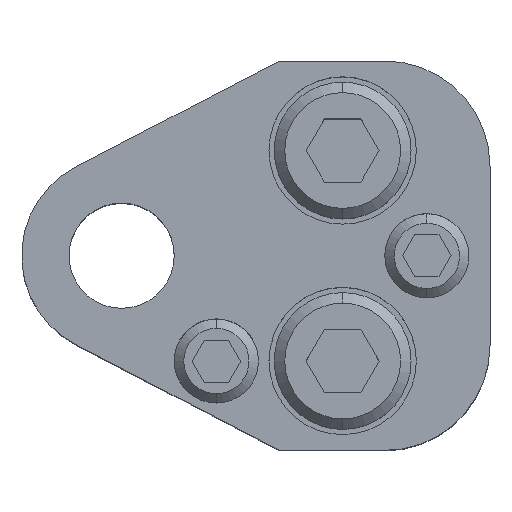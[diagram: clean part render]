
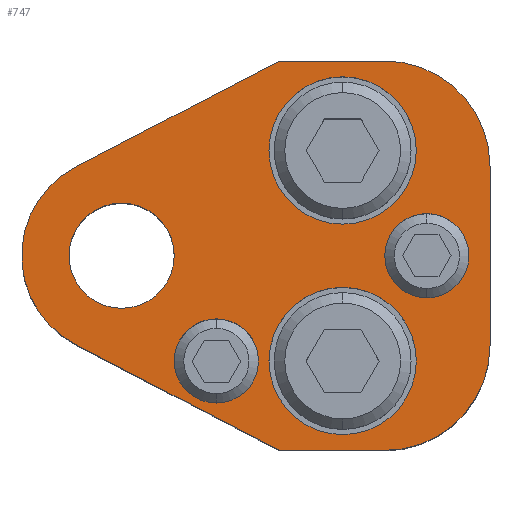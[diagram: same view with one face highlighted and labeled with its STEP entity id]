
A CAD part, top view. The second image highlights one B-rep face of the part: STEP entity #747.
In plain terms, the highlighted planar face has unit normal (0, 0, 1).
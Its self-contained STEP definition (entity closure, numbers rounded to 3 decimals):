
#429=LINE('',#3637,#593);
#433=LINE('',#3646,#597);
#437=LINE('',#3658,#601);
#441=LINE('',#3670,#605);
#444=LINE('',#3676,#608);
#593=VECTOR('',#2930,1.);
#597=VECTOR('',#2936,1.);
#601=VECTOR('',#2948,1.);
#605=VECTOR('',#2960,1.);
#608=VECTOR('',#2965,1.);
#747=ADVANCED_FACE('',(#853,#854,#855,#856,#857,#858),#823,.T.);
#823=PLANE('',#2443);
#853=FACE_BOUND('',#997,.T.);
#854=FACE_BOUND('',#998,.T.);
#855=FACE_BOUND('',#999,.T.);
#856=FACE_BOUND('',#1000,.T.);
#857=FACE_BOUND('',#1001,.T.);
#858=FACE_BOUND('',#1002,.T.);
#997=EDGE_LOOP('',(#1511,#1512,#1513,#1514,#1515,#1516,#1517,#1518));
#998=EDGE_LOOP('',(#1519,#1520));
#999=EDGE_LOOP('',(#1521,#1522));
#1000=EDGE_LOOP('',(#1523,#1524));
#1001=EDGE_LOOP('',(#1525,#1526));
#1002=EDGE_LOOP('',(#1527,#1528));
#1511=ORIENTED_EDGE('',*,*,#2004,.T.);
#1512=ORIENTED_EDGE('',*,*,#2008,.T.);
#1513=ORIENTED_EDGE('',*,*,#2011,.T.);
#1514=ORIENTED_EDGE('',*,*,#2014,.T.);
#1515=ORIENTED_EDGE('',*,*,#2017,.T.);
#1516=ORIENTED_EDGE('',*,*,#2020,.T.);
#1517=ORIENTED_EDGE('',*,*,#2023,.T.);
#1518=ORIENTED_EDGE('',*,*,#2026,.T.);
#1519=ORIENTED_EDGE('',*,*,#2061,.F.);
#1520=ORIENTED_EDGE('',*,*,#2062,.F.);
#1521=ORIENTED_EDGE('',*,*,#2063,.F.);
#1522=ORIENTED_EDGE('',*,*,#2064,.F.);
#1523=ORIENTED_EDGE('',*,*,#2051,.F.);
#1524=ORIENTED_EDGE('',*,*,#2047,.F.);
#1525=ORIENTED_EDGE('',*,*,#2045,.F.);
#1526=ORIENTED_EDGE('',*,*,#2041,.F.);
#1527=ORIENTED_EDGE('',*,*,#2065,.T.);
#1528=ORIENTED_EDGE('',*,*,#2066,.T.);
#1744=VERTEX_POINT('',#3636);
#1745=VERTEX_POINT('',#3638);
#1748=VERTEX_POINT('',#3645);
#1750=VERTEX_POINT('',#3651);
#1752=VERTEX_POINT('',#3657);
#1754=VERTEX_POINT('',#3663);
#1756=VERTEX_POINT('',#3669);
#1758=VERTEX_POINT('',#3675);
#1771=VERTEX_POINT('',#3712);
#1772=VERTEX_POINT('',#3713);
#1775=VERTEX_POINT('',#3724);
#1776=VERTEX_POINT('',#3725);
#1783=VERTEX_POINT('',#3752);
#1784=VERTEX_POINT('',#3753);
#1785=VERTEX_POINT('',#3756);
#1786=VERTEX_POINT('',#3757);
#1787=VERTEX_POINT('',#3760);
#1788=VERTEX_POINT('',#3761);
#2004=EDGE_CURVE('',#1745,#1744,#429,.T.);
#2008=EDGE_CURVE('',#1744,#1748,#433,.T.);
#2011=EDGE_CURVE('',#1748,#1750,#2171,.T.);
#2014=EDGE_CURVE('',#1750,#1752,#437,.T.);
#2017=EDGE_CURVE('',#1752,#1754,#2173,.T.);
#2020=EDGE_CURVE('',#1754,#1756,#441,.T.);
#2023=EDGE_CURVE('',#1756,#1758,#444,.T.);
#2026=EDGE_CURVE('',#1758,#1745,#2176,.T.);
#2041=EDGE_CURVE('',#1771,#1772,#2189,.T.);
#2045=EDGE_CURVE('',#1772,#1771,#2191,.T.);
#2047=EDGE_CURVE('',#1775,#1776,#2193,.T.);
#2051=EDGE_CURVE('',#1776,#1775,#2195,.T.);
#2061=EDGE_CURVE('',#1783,#1784,#2201,.T.);
#2062=EDGE_CURVE('',#1784,#1783,#2202,.T.);
#2063=EDGE_CURVE('',#1785,#1786,#2203,.T.);
#2064=EDGE_CURVE('',#1786,#1785,#2204,.T.);
#2065=EDGE_CURVE('',#1787,#1788,#2205,.T.);
#2066=EDGE_CURVE('',#1788,#1787,#2206,.T.);
#2171=CIRCLE('',#2390,10.);
#2173=CIRCLE('',#2394,10.);
#2176=CIRCLE('',#2400,9.5);
#2189=CIRCLE('',#2417,4.);
#2191=CIRCLE('',#2420,4.);
#2193=CIRCLE('',#2423,4.);
#2195=CIRCLE('',#2426,4.);
#2201=CIRCLE('',#2437,7.);
#2202=CIRCLE('',#2438,7.);
#2203=CIRCLE('',#2439,7.);
#2204=CIRCLE('',#2440,7.);
#2205=CIRCLE('',#2441,5.);
#2206=CIRCLE('',#2442,5.);
#2390=AXIS2_PLACEMENT_3D('',#3652,#2941,#2942);
#2394=AXIS2_PLACEMENT_3D('',#3664,#2953,#2954);
#2400=AXIS2_PLACEMENT_3D('',#3680,#2971,#2972);
#2417=AXIS2_PLACEMENT_3D('',#3711,#3007,#3008);
#2420=AXIS2_PLACEMENT_3D('',#3720,#3015,#3016);
#2423=AXIS2_PLACEMENT_3D('',#3723,#3021,#3022);
#2426=AXIS2_PLACEMENT_3D('',#3732,#3029,#3030);
#2437=AXIS2_PLACEMENT_3D('',#3751,#3055,#3056);
#2438=AXIS2_PLACEMENT_3D('',#3754,#3057,#3058);
#2439=AXIS2_PLACEMENT_3D('',#3755,#3059,#3060);
#2440=AXIS2_PLACEMENT_3D('',#3758,#3061,#3062);
#2441=AXIS2_PLACEMENT_3D('',#3759,#3063,#3064);
#2442=AXIS2_PLACEMENT_3D('',#3762,#3065,#3066);
#2443=AXIS2_PLACEMENT_3D('',#3763,#3067,#3068);
#2930=DIRECTION('',(0.887,-0.461,0.));
#2936=DIRECTION('',(1.,0.,0.));
#2941=DIRECTION('',(0.,0.,1.));
#2942=DIRECTION('',(-0.707,0.707,0.));
#2948=DIRECTION('',(0.,1.,0.));
#2953=DIRECTION('',(0.,0.,1.));
#2954=DIRECTION('',(-0.707,-0.707,0.));
#2960=DIRECTION('',(-1.,0.,0.));
#2965=DIRECTION('',(-0.887,-0.461,0.));
#2971=DIRECTION('',(0.,0.,1.));
#2972=DIRECTION('',(1.,0.,0.));
#3007=DIRECTION('',(0.,0.,1.));
#3008=DIRECTION('',(-1.,0.,0.));
#3015=DIRECTION('',(0.,0.,1.));
#3016=DIRECTION('',(1.,0.,0.));
#3021=DIRECTION('',(0.,0.,1.));
#3022=DIRECTION('',(-1.,0.,0.));
#3029=DIRECTION('',(0.,0.,1.));
#3030=DIRECTION('',(1.,0.,0.));
#3055=DIRECTION('',(0.,0.,1.));
#3056=DIRECTION('',(1.,0.,0.));
#3057=DIRECTION('',(0.,0.,1.));
#3058=DIRECTION('',(-1.,0.,0.));
#3059=DIRECTION('',(0.,0.,1.));
#3060=DIRECTION('',(1.,0.,0.));
#3061=DIRECTION('',(0.,0.,1.));
#3062=DIRECTION('',(-1.,0.,0.));
#3063=DIRECTION('',(0.,0.,-1.));
#3064=DIRECTION('',(-1.,0.,0.));
#3065=DIRECTION('',(0.,0.,-1.));
#3066=DIRECTION('',(1.,0.,0.));
#3067=DIRECTION('',(0.,0.,1.));
#3068=DIRECTION('',(0.887,-0.461,0.));
#3636=CARTESIAN_POINT('',(15.,-18.5,30.));
#3637=CARTESIAN_POINT('',(15.,-18.5,30.));
#3638=CARTESIAN_POINT('',(-4.38,-8.43,30.));
#3645=CARTESIAN_POINT('',(25.,-18.5,30.));
#3646=CARTESIAN_POINT('',(15.,-18.5,30.));
#3651=CARTESIAN_POINT('',(35.,-8.5,30.));
#3652=CARTESIAN_POINT('',(25.,-8.5,30.));
#3657=CARTESIAN_POINT('',(35.,8.5,30.));
#3658=CARTESIAN_POINT('',(35.,8.5,30.));
#3663=CARTESIAN_POINT('',(25.,18.5,30.));
#3664=CARTESIAN_POINT('',(25.,8.5,30.));
#3669=CARTESIAN_POINT('',(15.,18.5,30.));
#3670=CARTESIAN_POINT('',(15.,18.5,30.));
#3675=CARTESIAN_POINT('',(-4.38,8.43,30.));
#3676=CARTESIAN_POINT('',(15.,18.5,30.));
#3680=CARTESIAN_POINT('',(0.,0.,30.));
#3711=CARTESIAN_POINT('',(9.,-10.,30.));
#3712=CARTESIAN_POINT('',(9.,-14.,30.));
#3713=CARTESIAN_POINT('',(9.,-6.,30.));
#3720=CARTESIAN_POINT('',(9.,-10.,30.));
#3723=CARTESIAN_POINT('',(29.,0.,30.));
#3724=CARTESIAN_POINT('',(29.,-4.,30.));
#3725=CARTESIAN_POINT('',(29.,4.,30.));
#3732=CARTESIAN_POINT('',(29.,0.,30.));
#3751=CARTESIAN_POINT('',(21.,10.,30.));
#3752=CARTESIAN_POINT('',(21.,17.,30.));
#3753=CARTESIAN_POINT('',(21.,3.,30.));
#3754=CARTESIAN_POINT('',(21.,10.,30.));
#3755=CARTESIAN_POINT('',(21.,-10.,30.));
#3756=CARTESIAN_POINT('',(21.,-3.,30.));
#3757=CARTESIAN_POINT('',(21.,-17.,30.));
#3758=CARTESIAN_POINT('',(21.,-10.,30.));
#3759=CARTESIAN_POINT('',(0.,0.,30.));
#3760=CARTESIAN_POINT('',(0.,5.,30.));
#3761=CARTESIAN_POINT('',(0.,-5.,30.));
#3762=CARTESIAN_POINT('',(0.,0.,30.));
#3763=CARTESIAN_POINT('',(-4.38,-8.43,30.));
